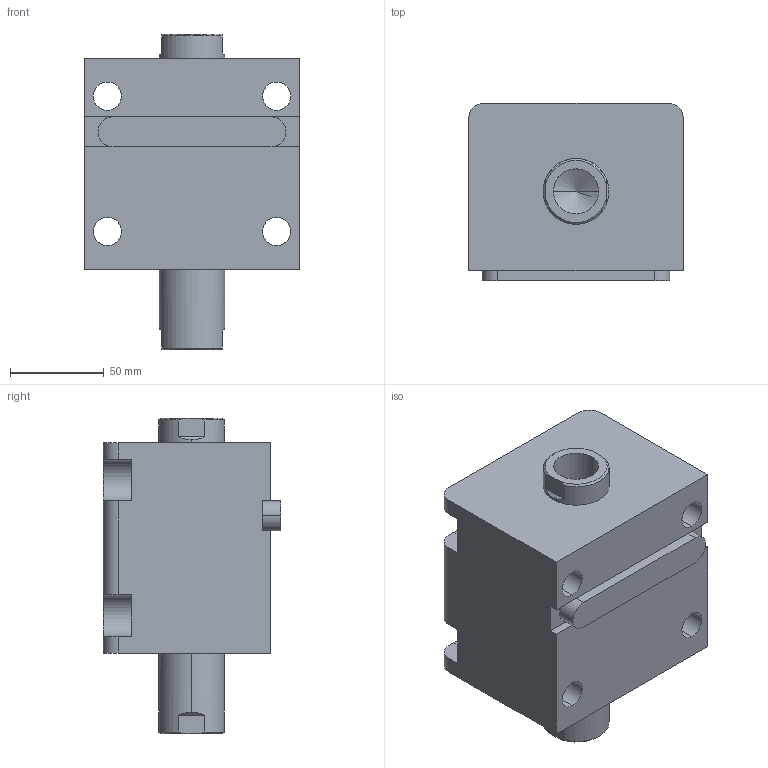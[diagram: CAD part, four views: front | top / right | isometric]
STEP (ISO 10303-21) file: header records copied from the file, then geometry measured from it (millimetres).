
FILE_DESCRIPTION (( 'STEP AP203' ), '1' );
FILE_NAME ('HTB-LW63-30N.STEP', '2019-10-09T08:24:53', ( '微软用户' ), ( '微软中国' ), 'SwSTEP 2.0', 'SolidWorks 2012', '' );
FILE_SCHEMA (( 'CONFIG_CONTROL_DESIGN' ));
Length unit declared in the file: millimetre
Products named in the file (4): HTB-LW63-30N; HTB-LA63-瑩; HTB-LW63-30N活塞杆; HTB-LW63-30掛极
Assembly tree (3 placements, depth 2):
  HTB-LW63-30N
    HTB-LW63-30掛极
    HTB-LW63-30N活塞杆
    HTB-LA63-瑩
Bounding box: 114 x 94.5 x 168 mm (x, y, z)
Volume: 1011458.5 mm3; surface area: 137937.4 mm2
Topology: 3 solids, 3 shells, 101 faces, 253 edges, 164 vertices
Faces by surface type: plane 44, cylinder 41, cone 12, torus 4
Entity records: 3467 total; most frequent: CARTESIAN_POINT 576, DIRECTION 549, ORIENTED_EDGE 498, EDGE_CURVE 249, AXIS2_PLACEMENT_3D 209, VERTEX_POINT 164, VECTOR 131, LINE 131
